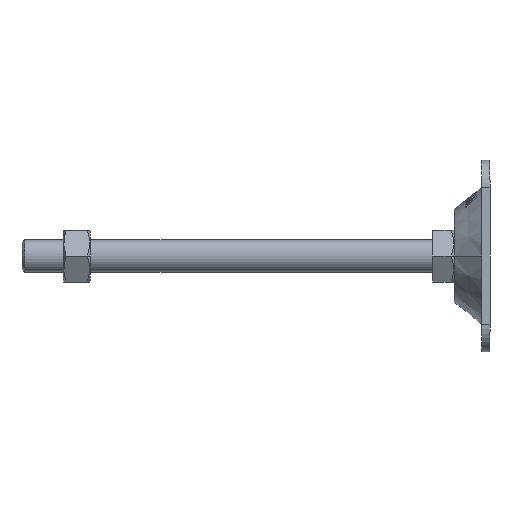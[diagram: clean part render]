
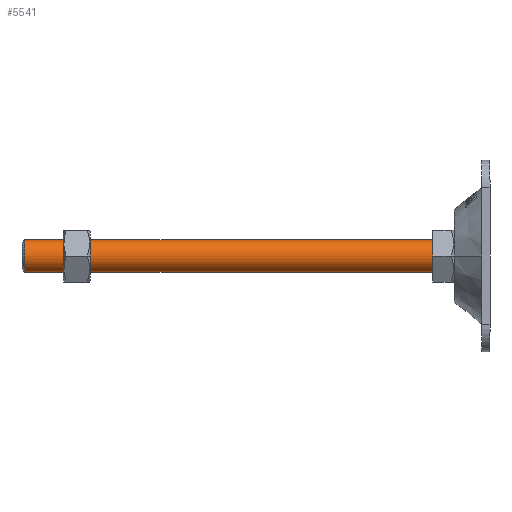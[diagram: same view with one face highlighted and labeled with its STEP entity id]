
A CAD part, left-side view. The second image highlights one B-rep face of the part: STEP entity #5541.
In plain terms, the highlighted cylindrical face has radius 6 mm (diameter 12 mm), a partial arc.
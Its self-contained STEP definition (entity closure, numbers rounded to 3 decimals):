
#9 = CARTESIAN_POINT ( 'NONE',  ( 0., 157., 0. ) ) ;
#215 = ORIENTED_EDGE ( 'NONE', *, *, #5474, .T. ) ;
#269 = ORIENTED_EDGE ( 'NONE', *, *, #5279, .T. ) ;
#824 = CARTESIAN_POINT ( 'NONE',  ( 0., 157., -6. ) ) ;
#1304 = ORIENTED_EDGE ( 'NONE', *, *, #2757, .F. ) ;
#1343 = EDGE_LOOP ( 'NONE', ( #1304, #269, #4702, #215 ) ) ;
#1754 = FACE_OUTER_BOUND ( 'NONE', #1343, .T. ) ;
#1788 = DIRECTION ( 'NONE',  ( 0., 0., -1. ) ) ;
#1830 = DIRECTION ( 'NONE',  ( 0., 0., -1. ) ) ;
#1867 = VERTEX_POINT ( 'NONE', #3465 ) ;
#2027 = VERTEX_POINT ( 'NONE', #2213 ) ;
#2060 = DIRECTION ( 'NONE',  ( 0., 1., 0. ) ) ;
#2069 = CARTESIAN_POINT ( 'NONE',  ( 0., 6., 6. ) ) ;
#2079 = VECTOR ( 'NONE', #3666, 1000. ) ;
#2117 = CYLINDRICAL_SURFACE ( 'NONE', #5829, 6. ) ;
#2213 = CARTESIAN_POINT ( 'NONE',  ( 0., 8., -6. ) ) ;
#2281 = EDGE_CURVE ( 'NONE', #3434, #2027, #5509, .T. ) ;
#2349 = CARTESIAN_POINT ( 'NONE',  ( 0., 6., -6. ) ) ;
#2512 = DIRECTION ( 'NONE',  ( 0., -1., 0. ) ) ;
#2757 = EDGE_CURVE ( 'NONE', #1867, #5632, #3446, .T. ) ;
#3138 = CIRCLE ( 'NONE', #5066, 6. ) ;
#3434 = VERTEX_POINT ( 'NONE', #824 ) ;
#3446 = LINE ( 'NONE', #2069, #4364 ) ;
#3465 = CARTESIAN_POINT ( 'NONE',  ( 0., 157., 6. ) ) ;
#3579 = CARTESIAN_POINT ( 'NONE',  ( 0., 6., 0. ) ) ;
#3666 = DIRECTION ( 'NONE',  ( 0., -1., 0. ) ) ;
#3710 = AXIS2_PLACEMENT_3D ( 'NONE', #9, #3711, #1830 ) ;
#3711 = DIRECTION ( 'NONE',  ( 0., -1., 0. ) ) ;
#3755 = CARTESIAN_POINT ( 'NONE',  ( 0., 8., 6. ) ) ;
#4307 = DIRECTION ( 'NONE',  ( 0., 0., 1. ) ) ;
#4364 = VECTOR ( 'NONE', #2512, 1000. ) ;
#4702 = ORIENTED_EDGE ( 'NONE', *, *, #2281, .T. ) ;
#4962 = CIRCLE ( 'NONE', #3710, 6. ) ;
#5066 = AXIS2_PLACEMENT_3D ( 'NONE', #5214, #2060, #4307 ) ;
#5214 = CARTESIAN_POINT ( 'NONE',  ( 0., 8., 0. ) ) ;
#5279 = EDGE_CURVE ( 'NONE', #1867, #3434, #4962, .T. ) ;
#5423 = DIRECTION ( 'NONE',  ( 0., -1., 0. ) ) ;
#5474 = EDGE_CURVE ( 'NONE', #2027, #5632, #3138, .T. ) ;
#5509 = LINE ( 'NONE', #2349, #2079 ) ;
#5541 = ADVANCED_FACE ( 'NONE', ( #1754 ), #2117, .T. ) ;
#5632 = VERTEX_POINT ( 'NONE', #3755 ) ;
#5829 = AXIS2_PLACEMENT_3D ( 'NONE', #3579, #5423, #1788 ) ;
